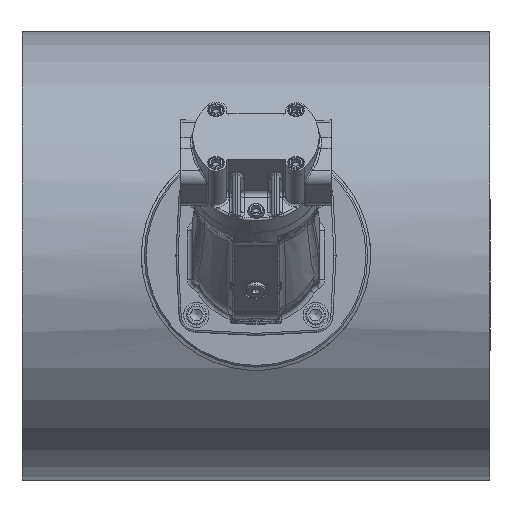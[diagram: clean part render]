
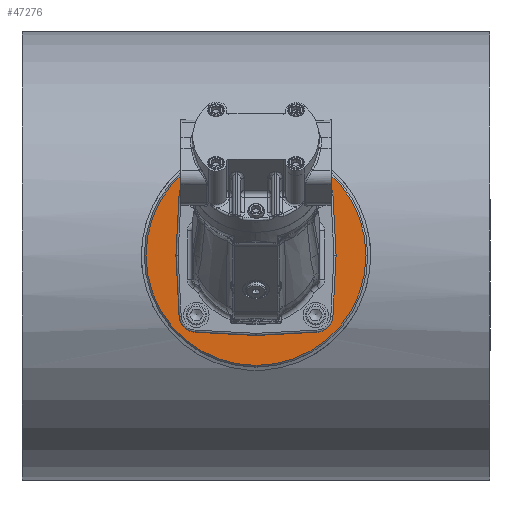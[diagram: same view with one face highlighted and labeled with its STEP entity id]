
A CAD part, top view. The second image highlights one B-rep face of the part: STEP entity #47276.
In plain terms, the highlighted planar face has unit normal (0, 0, 1).
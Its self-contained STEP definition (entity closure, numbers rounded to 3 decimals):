
#1498=FACE_BOUND('',#9180,.T.);
#1499=FACE_BOUND('',#9181,.T.);
#1500=FACE_BOUND('',#9182,.T.);
#1501=FACE_BOUND('',#9183,.T.);
#1502=FACE_BOUND('',#9184,.T.);
#2158=CIRCLE('',#50321,130.5);
#2159=CIRCLE('',#50323,80.364);
#2160=CIRCLE('',#50324,7.);
#2161=CIRCLE('',#50325,7.);
#2162=CIRCLE('',#50326,7.);
#2163=CIRCLE('',#50327,7.);
#2164=CIRCLE('',#50328,7.);
#2165=CIRCLE('',#50329,7.);
#2166=CIRCLE('',#50330,7.);
#2167=CIRCLE('',#50331,7.);
#5556=PLANE('',#50322);
#6353=FACE_OUTER_BOUND('',#9179,.T.);
#9179=EDGE_LOOP('',(#30096));
#9180=EDGE_LOOP('',(#30097));
#9181=EDGE_LOOP('',(#30098,#30099));
#9182=EDGE_LOOP('',(#30100,#30101));
#9183=EDGE_LOOP('',(#30102,#30103));
#9184=EDGE_LOOP('',(#30104,#30105));
#17764=VERTEX_POINT('',#72512);
#17765=VERTEX_POINT('',#72516);
#17766=VERTEX_POINT('',#72518);
#17767=VERTEX_POINT('',#72519);
#17768=VERTEX_POINT('',#72522);
#17769=VERTEX_POINT('',#72523);
#17770=VERTEX_POINT('',#72526);
#17771=VERTEX_POINT('',#72527);
#17772=VERTEX_POINT('',#72530);
#17773=VERTEX_POINT('',#72531);
#22579=EDGE_CURVE('',#17764,#17764,#2158,.T.);
#22580=EDGE_CURVE('',#17765,#17765,#2159,.T.);
#22581=EDGE_CURVE('',#17766,#17767,#2160,.T.);
#22582=EDGE_CURVE('',#17767,#17766,#2161,.T.);
#22583=EDGE_CURVE('',#17768,#17769,#2162,.T.);
#22584=EDGE_CURVE('',#17769,#17768,#2163,.T.);
#22585=EDGE_CURVE('',#17770,#17771,#2164,.T.);
#22586=EDGE_CURVE('',#17771,#17770,#2165,.T.);
#22587=EDGE_CURVE('',#17772,#17773,#2166,.T.);
#22588=EDGE_CURVE('',#17773,#17772,#2167,.T.);
#30096=ORIENTED_EDGE('',*,*,#22579,.F.);
#30097=ORIENTED_EDGE('',*,*,#22580,.F.);
#30098=ORIENTED_EDGE('',*,*,#22581,.T.);
#30099=ORIENTED_EDGE('',*,*,#22582,.T.);
#30100=ORIENTED_EDGE('',*,*,#22583,.T.);
#30101=ORIENTED_EDGE('',*,*,#22584,.T.);
#30102=ORIENTED_EDGE('',*,*,#22585,.T.);
#30103=ORIENTED_EDGE('',*,*,#22586,.T.);
#30104=ORIENTED_EDGE('',*,*,#22587,.T.);
#30105=ORIENTED_EDGE('',*,*,#22588,.T.);
#47276=ADVANCED_FACE('',(#6353,#1498,#1499,#1500,#1501,#1502),#5556,.F.);
#50321=AXIS2_PLACEMENT_3D('',#72514,#56803,#56804);
#50322=AXIS2_PLACEMENT_3D('',#72515,#56805,#56806);
#50323=AXIS2_PLACEMENT_3D('',#72517,#56807,#56808);
#50324=AXIS2_PLACEMENT_3D('',#72520,#56809,#56810);
#50325=AXIS2_PLACEMENT_3D('',#72521,#56811,#56812);
#50326=AXIS2_PLACEMENT_3D('',#72524,#56813,#56814);
#50327=AXIS2_PLACEMENT_3D('',#72525,#56815,#56816);
#50328=AXIS2_PLACEMENT_3D('',#72528,#56817,#56818);
#50329=AXIS2_PLACEMENT_3D('',#72529,#56819,#56820);
#50330=AXIS2_PLACEMENT_3D('',#72532,#56821,#56822);
#50331=AXIS2_PLACEMENT_3D('',#72533,#56823,#56824);
#56803=DIRECTION('center_axis',(0.,0.,
-1.));
#56804=DIRECTION('ref_axis',(0.,1.,0.));
#56805=DIRECTION('center_axis',(0.,0.,
-1.));
#56806=DIRECTION('ref_axis',(0.,1.,0.));
#56807=DIRECTION('center_axis',(0.,0.,
1.));
#56808=DIRECTION('ref_axis',(0.,1.,0.));
#56809=DIRECTION('center_axis',(0.,0.,
-1.));
#56810=DIRECTION('ref_axis',(-1.,0.,0.));
#56811=DIRECTION('center_axis',(0.,0.,
-1.));
#56812=DIRECTION('ref_axis',(-1.,0.,0.));
#56813=DIRECTION('center_axis',(0.,0.,
-1.));
#56814=DIRECTION('ref_axis',(0.,1.,0.));
#56815=DIRECTION('center_axis',(0.,0.,
-1.));
#56816=DIRECTION('ref_axis',(0.,1.,0.));
#56817=DIRECTION('center_axis',(0.,0.,
-1.));
#56818=DIRECTION('ref_axis',(1.,0.,0.));
#56819=DIRECTION('center_axis',(0.,0.,
-1.));
#56820=DIRECTION('ref_axis',(1.,0.,0.));
#56821=DIRECTION('center_axis',(0.,0.,
-1.));
#56822=DIRECTION('ref_axis',(0.,-1.,0.));
#56823=DIRECTION('center_axis',(0.,0.,
-1.));
#56824=DIRECTION('ref_axis',(0.,-1.,0.));
#72512=CARTESIAN_POINT('',(0.,-128.895,450.605));
#72514=CARTESIAN_POINT('Origin',(0.,1.605,
450.605));
#72515=CARTESIAN_POINT('Origin',(0.,1.605,
450.605));
#72516=CARTESIAN_POINT('',(0.,-78.759,450.605));
#72517=CARTESIAN_POINT('Origin',(0.,1.605,
450.605));
#72518=CARTESIAN_POINT('',(63.711,-69.106,450.605));
#72519=CARTESIAN_POINT('',(77.711,-69.106,450.605));
#72520=CARTESIAN_POINT('Origin',(70.711,-69.106,450.605));
#72521=CARTESIAN_POINT('Origin',(70.711,-69.106,450.605));
#72522=CARTESIAN_POINT('',(-70.711,-62.106,450.605));
#72523=CARTESIAN_POINT('',(-70.711,-76.106,450.605));
#72524=CARTESIAN_POINT('Origin',(-70.711,-69.106,450.605));
#72525=CARTESIAN_POINT('Origin',(-70.711,-69.106,450.605));
#72526=CARTESIAN_POINT('',(-63.711,72.315,450.605));
#72527=CARTESIAN_POINT('',(-77.711,72.315,450.605));
#72528=CARTESIAN_POINT('Origin',(-70.711,72.315,450.605));
#72529=CARTESIAN_POINT('Origin',(-70.711,72.315,450.605));
#72530=CARTESIAN_POINT('',(70.711,65.315,450.605));
#72531=CARTESIAN_POINT('',(70.711,79.315,450.605));
#72532=CARTESIAN_POINT('Origin',(70.711,72.315,450.605));
#72533=CARTESIAN_POINT('Origin',(70.711,72.315,450.605));
